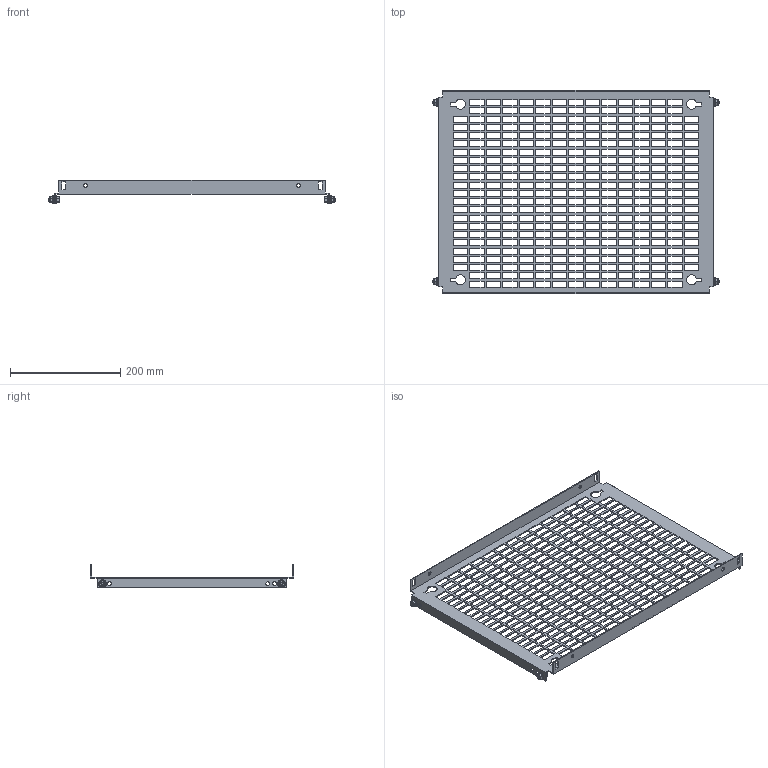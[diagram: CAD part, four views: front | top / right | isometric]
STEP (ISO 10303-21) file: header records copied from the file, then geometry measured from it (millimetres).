
FILE_DESCRIPTION(('Open CASCADE Model'),'2;1');
FILE_NAME('Open CASCADE Shape Model','2025-02-19T16:48:55',('Author'),( 'Open CASCADE'),'Open CASCADE STEP processor 7.8','Open CASCADE 7.8' ,'Unknown');
FILE_SCHEMA(('AUTOMOTIVE_DESIGN { 1 0 10303 214 1 1 1 1 }'));
Length unit declared in the file: millimetre
Products named in the file (4): Compound1; Solid1; Solid2; Solid3
Assembly tree (9 placements, depth 2):
  Compound1
    Solid1
    Solid2  x4
    Solid3  x4
Bounding box: 520 x 369 x 43 mm (x, y, z)
Volume: 246936.3 mm3; surface area: 301343.8 mm2
Topology: 9 solids, 9 shells, 1640 faces, 4749 edges, 3131 vertices
Faces by surface type: plane 1482, cone 68, bspline 48, cylinder 30, torus 12
Full cylindrical faces by diameter (mm): 5 x4, 6 x8, 7 x14
Entity records: 50622 total; most frequent: CARTESIAN_POINT 9431, ORIENTED_EDGE 8820, DIRECTION 7362, EDGE_CURVE 4410, LINE 4252, VECTOR 4252, VERTEX_POINT 2933, FACE_BOUND 2205
